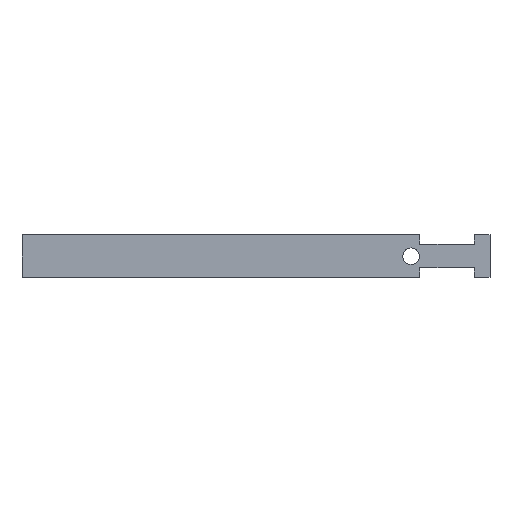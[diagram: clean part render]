
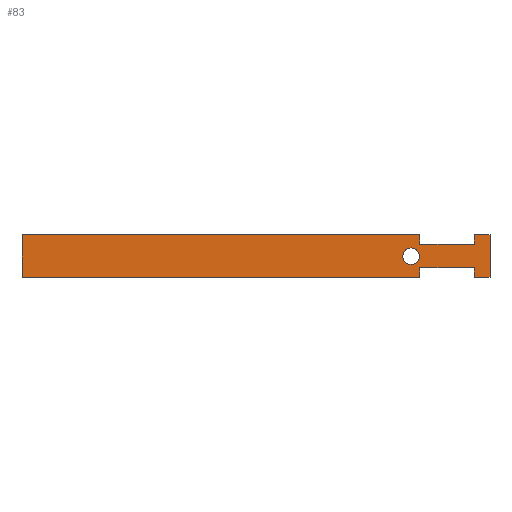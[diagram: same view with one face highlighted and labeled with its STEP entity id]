
A CAD part, top view. The second image highlights one B-rep face of the part: STEP entity #83.
In plain terms, the highlighted planar face has unit normal (0, 0, 1).
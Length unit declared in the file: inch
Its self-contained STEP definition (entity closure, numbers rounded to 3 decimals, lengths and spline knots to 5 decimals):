
#83=ADVANCED_FACE('',(#157,#158),#159,.T.);
#157=FACE_BOUND('',#249,.T.);
#158=FACE_OUTER_BOUND('',#250,.T.);
#159=PLANE('',#251);
#249=EDGE_LOOP('',(#380,#381,#382,#383));
#250=EDGE_LOOP('',(#384,#385,#386,#387,#388,#389,#390,#391,#392,#393,#394,#395));
#251=AXIS2_PLACEMENT_3D('',#396,#397,#398);
#380=ORIENTED_EDGE('',*,*,#472,.F.);
#381=ORIENTED_EDGE('',*,*,#459,.F.);
#382=ORIENTED_EDGE('',*,*,#493,.F.);
#383=ORIENTED_EDGE('',*,*,#434,.F.);
#384=ORIENTED_EDGE('',*,*,#483,.T.);
#385=ORIENTED_EDGE('',*,*,#447,.F.);
#386=ORIENTED_EDGE('',*,*,#475,.F.);
#387=ORIENTED_EDGE('',*,*,#449,.F.);
#388=ORIENTED_EDGE('',*,*,#494,.F.);
#389=ORIENTED_EDGE('',*,*,#478,.F.);
#390=ORIENTED_EDGE('',*,*,#454,.F.);
#391=ORIENTED_EDGE('',*,*,#468,.F.);
#392=ORIENTED_EDGE('',*,*,#490,.F.);
#393=ORIENTED_EDGE('',*,*,#485,.F.);
#394=ORIENTED_EDGE('',*,*,#439,.F.);
#395=ORIENTED_EDGE('',*,*,#465,.F.);
#396=CARTESIAN_POINT('',(-3.0,0.6875,0.105));
#397=DIRECTION('',(0.0,-0.0,1.0));
#398=DIRECTION('',(0.0,1.0,0.0));
#434=EDGE_CURVE('',#501,#502,#503,.T.);
#439=EDGE_CURVE('',#510,#511,#512,.T.);
#447=EDGE_CURVE('',#524,#519,#526,.T.);
#449=EDGE_CURVE('',#528,#529,#530,.T.);
#454=EDGE_CURVE('',#537,#538,#539,.T.);
#459=EDGE_CURVE('',#546,#547,#548,.T.);
#465=EDGE_CURVE('',#556,#510,#558,.T.);
#468=EDGE_CURVE('',#561,#537,#562,.T.);
#472=EDGE_CURVE('',#547,#501,#567,.T.);
#475=EDGE_CURVE('',#529,#524,#570,.T.);
#478=EDGE_CURVE('',#538,#573,#574,.T.);
#483=EDGE_CURVE('',#556,#519,#580,.T.);
#485=EDGE_CURVE('',#511,#582,#583,.T.);
#490=EDGE_CURVE('',#582,#561,#589,.T.);
#493=EDGE_CURVE('',#502,#546,#592,.T.);
#494=EDGE_CURVE('',#573,#528,#593,.T.);
#501=VERTEX_POINT('',#600);
#502=VERTEX_POINT('',#601);
#503=B_SPLINE_CURVE_WITH_KNOTS('',3,(#602,#603,#604,#605),.UNSPECIFIED.,.F.,.F.,(4,4),(-1.0,-0.0),.UNSPECIFIED.);
#510=VERTEX_POINT('',#617);
#511=VERTEX_POINT('',#618);
#512=LINE('',#619,#620);
#519=VERTEX_POINT('',#630);
#524=VERTEX_POINT('',#637);
#526=LINE('',#640,#641);
#528=VERTEX_POINT('',#643);
#529=VERTEX_POINT('',#644);
#530=LINE('',#645,#646);
#537=VERTEX_POINT('',#656);
#538=VERTEX_POINT('',#657);
#539=LINE('',#658,#659);
#546=VERTEX_POINT('',#669);
#547=VERTEX_POINT('',#670);
#548=B_SPLINE_CURVE_WITH_KNOTS('',3,(#671,#672,#673,#674),.UNSPECIFIED.,.F.,.F.,(4,4),(-1.0,-0.0),.UNSPECIFIED.);
#556=VERTEX_POINT('',#687);
#558=LINE('',#690,#691);
#561=VERTEX_POINT('',#695);
#562=LINE('',#696,#697);
#567=B_SPLINE_CURVE_WITH_KNOTS('',3,(#704,#705,#706,#707),.UNSPECIFIED.,.F.,.F.,(4,4),(-1.0,-0.0),.UNSPECIFIED.);
#570=LINE('',#713,#714);
#573=VERTEX_POINT('',#718);
#574=LINE('',#719,#720);
#580=LINE('',#729,#730);
#582=VERTEX_POINT('',#732);
#583=LINE('',#733,#734);
#589=LINE('',#742,#743);
#592=B_SPLINE_CURVE_WITH_KNOTS('',3,(#747,#748,#749,#750),.UNSPECIFIED.,.F.,.F.,(4,4),(-1.0,-0.0),.UNSPECIFIED.);
#593=LINE('',#751,#752);
#600=CARTESIAN_POINT('',(6.20303,0.68007,0.105));
#601=CARTESIAN_POINT('',(6.46866,0.41444,0.105));
#602=CARTESIAN_POINT('',(6.20303,0.68007,0.105));
#603=CARTESIAN_POINT('',(6.20303,0.53337,0.105));
#604=CARTESIAN_POINT('',(6.32195,0.41444,0.105));
#605=CARTESIAN_POINT('',(6.46866,0.41444,0.105));
#617=CARTESIAN_POINT('',(6.75007,1.375,0.105));
#618=CARTESIAN_POINT('',(6.75007,1.06288,0.105));
#619=CARTESIAN_POINT('',(6.75007,1.375,0.105));
#620=VECTOR('',#764,1.0);
#630=CARTESIAN_POINT('',(-6.0,0.0,0.105));
#637=CARTESIAN_POINT('',(6.75007,0.0,0.105));
#640=CARTESIAN_POINT('',(-3.0,0.0,0.105));
#641=VECTOR('',#771,1.0);
#643=CARTESIAN_POINT('',(8.50007,0.31246,0.105));
#644=CARTESIAN_POINT('',(6.75007,0.31269,0.105));
#645=CARTESIAN_POINT('',(8.50007,0.31246,0.105));
#646=VECTOR('',#772,1.0);
#656=CARTESIAN_POINT('',(9.0,1.375,0.105));
#657=CARTESIAN_POINT('',(9.0,0.0,0.105));
#658=CARTESIAN_POINT('',(9.0,1.375,0.105));
#659=VECTOR('',#776,1.0);
#669=CARTESIAN_POINT('',(6.73428,0.68007,0.105));
#670=CARTESIAN_POINT('',(6.46866,0.94569,0.105));
#671=CARTESIAN_POINT('',(6.73428,0.68007,0.105));
#672=CARTESIAN_POINT('',(6.73428,0.82677,0.105));
#673=CARTESIAN_POINT('',(6.61536,0.94569,0.105));
#674=CARTESIAN_POINT('',(6.46866,0.94569,0.105));
#687=CARTESIAN_POINT('',(-6.0,1.375,0.105));
#690=CARTESIAN_POINT('',(0.0,1.375,0.105));
#691=VECTOR('',#783,1.0);
#695=CARTESIAN_POINT('',(8.5,1.375,0.105));
#696=CARTESIAN_POINT('',(8.5,1.375,0.105));
#697=VECTOR('',#785,1.0);
#704=CARTESIAN_POINT('',(6.46866,0.94569,0.105));
#705=CARTESIAN_POINT('',(6.32195,0.94569,0.105));
#706=CARTESIAN_POINT('',(6.20303,0.82677,0.105));
#707=CARTESIAN_POINT('',(6.20303,0.68007,0.105));
#713=CARTESIAN_POINT('',(6.75007,0.31269,0.105));
#714=VECTOR('',#788,1.0);
#718=CARTESIAN_POINT('',(8.5,0.0,0.105));
#719=CARTESIAN_POINT('',(9.0,0.0,0.105));
#720=VECTOR('',#790,1.0);
#729=CARTESIAN_POINT('',(-6.0,0.0,0.105));
#730=VECTOR('',#794,1.0);
#732=CARTESIAN_POINT('',(8.50007,1.06246,0.105));
#733=CARTESIAN_POINT('',(6.75007,1.06288,0.105));
#734=VECTOR('',#795,1.0);
#742=CARTESIAN_POINT('',(8.50007,1.06246,0.105));
#743=VECTOR('',#798,1.0);
#747=CARTESIAN_POINT('',(6.46866,0.41444,0.105));
#748=CARTESIAN_POINT('',(6.61536,0.41444,0.105));
#749=CARTESIAN_POINT('',(6.73428,0.53337,0.105));
#750=CARTESIAN_POINT('',(6.73428,0.68007,0.105));
#751=CARTESIAN_POINT('',(8.5,0.0,0.105));
#752=VECTOR('',#800,1.0);
#764=DIRECTION('',(0.0,-1.0,0.0));
#771=DIRECTION('',(-1.0,0.0,0.0));
#772=DIRECTION('',(-1.,0.,0.0));
#776=DIRECTION('',(0.0,-1.0,0.0));
#783=DIRECTION('',(1.0,0.0,0.0));
#785=DIRECTION('',(1.0,0.0,0.0));
#788=DIRECTION('',(0.0,-1.0,0.0));
#790=DIRECTION('',(-1.0,0.0,0.0));
#794=DIRECTION('',(-0.0,-1.0,-0.0));
#795=DIRECTION('',(1.,0.,0.0));
#798=DIRECTION('',(0.,1.,0.0));
#800=DIRECTION('',(0.,1.,0.0));
